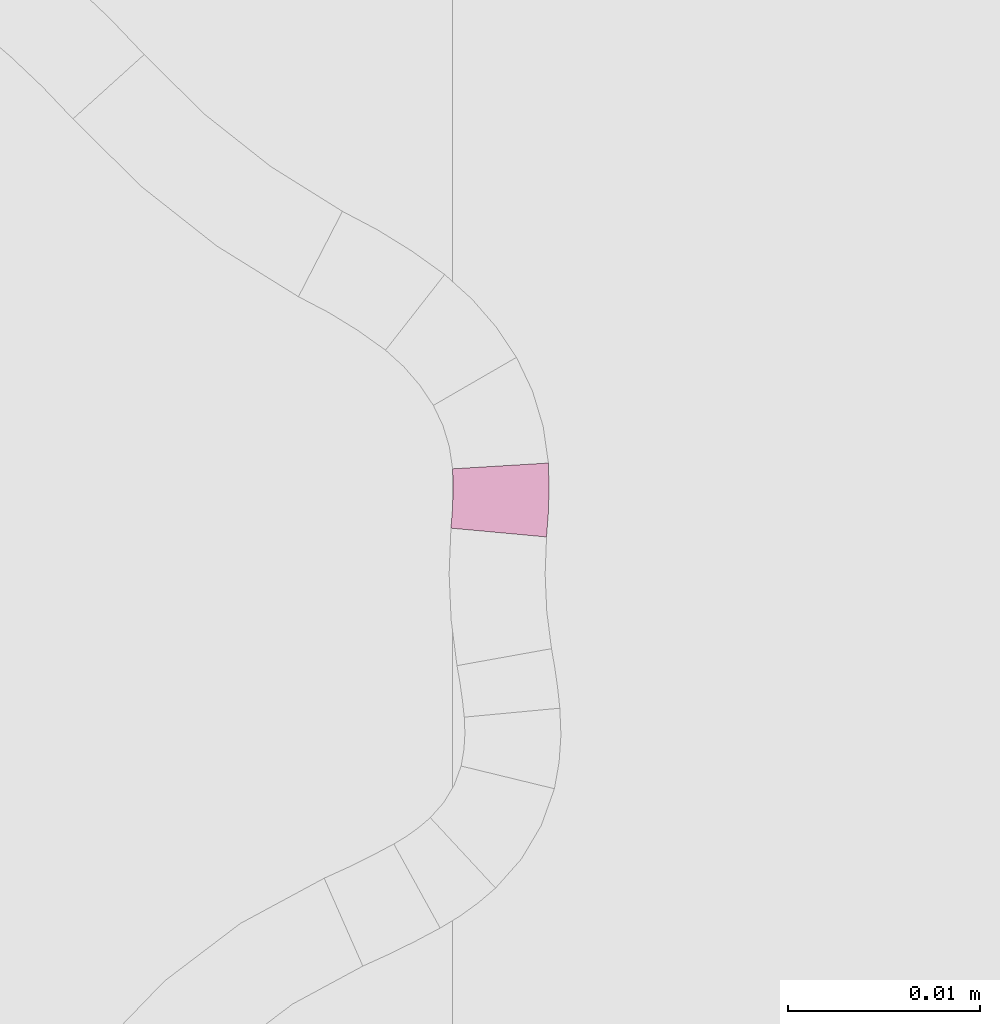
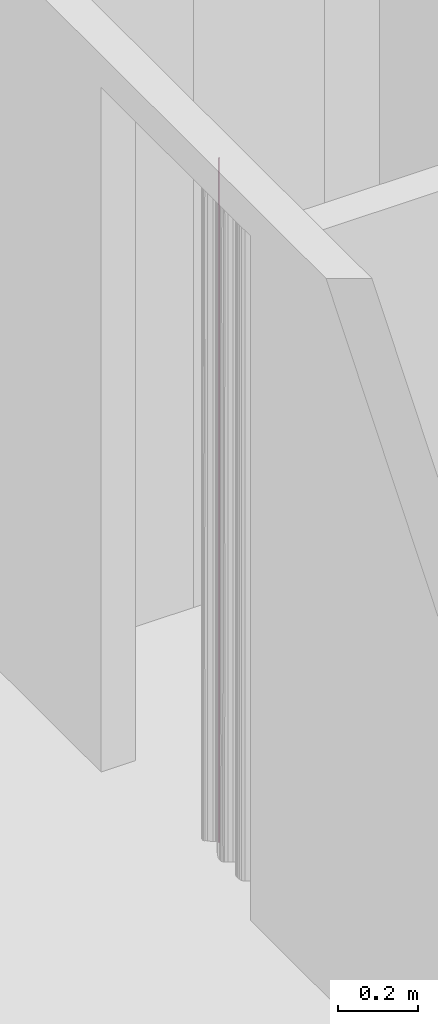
# One storey, part 216 of 418: 1 furnishing.
"""IFC2X3 building model written with IfcOpenShell, lengths in millimetres."""

from ifc_helpers import new_model, entity, si_unit, converted_unit, derived_unit, money_unit, point, direction, frame, frame_2d, origin_with_axes, place, context, subcontext, project, spatial, polyline, circle_curve, parameter, trimmed, segment, composite_curve, outline, extrude, material, type_object, element, save


model = new_model("IFC2X3")

# Units and contexts
model_context = context("Model", 3, precision=0.01, world=origin_with_axes(), true_north=direction((0.0, 1.0)))
body_context = subcontext(model_context, "Body", "Model", "MODEL_VIEW")
ifc_project = project(units=[si_unit("LENGTHUNIT", "METRE", prefix="MILLI"), si_unit("AREAUNIT", "SQUARE_METRE"), si_unit("VOLUMEUNIT", "CUBIC_METRE"), converted_unit("PLANEANGLEUNIT", "DEGREE", entity("IfcPlaneAngleMeasure", 0.0174532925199), si_unit("PLANEANGLEUNIT", "RADIAN"), dimensions=[0, 0, 0, 0, 0, 0, 0]), si_unit("SOLIDANGLEUNIT", "STERADIAN"), money_unit("EUR"), converted_unit("TIMEUNIT", "Year", entity("IfcTimeMeasure", 31556926.0), si_unit("TIMEUNIT", "SECOND"), dimensions=[0, 0, 1, 0, 0, 0, 0]), si_unit("MASSUNIT", "GRAM", prefix="KILO"), si_unit("THERMODYNAMICTEMPERATUREUNIT", "DEGREE_CELSIUS"), si_unit("LUMINOUSINTENSITYUNIT", "LUMEN"), si_unit("ENERGYUNIT", "JOULE", prefix="MEGA"), derived_unit("THERMALCONDUCTANCEUNIT", [(si_unit("POWERUNIT", "WATT"), 1), (si_unit("LENGTHUNIT", "METRE"), -1), (si_unit("THERMODYNAMICTEMPERATUREUNIT", "KELVIN"), -1)]), derived_unit("SPECIFICHEATCAPACITYUNIT", [(si_unit("ENERGYUNIT", "JOULE"), 1), (si_unit("MASSUNIT", "GRAM", prefix="KILO"), -1), (si_unit("THERMODYNAMICTEMPERATUREUNIT", "KELVIN"), -1)]), derived_unit("MASSDENSITYUNIT", [(si_unit("MASSUNIT", "GRAM", prefix="KILO"), 1), (si_unit("VOLUMEUNIT", "CUBIC_METRE"), -1)])], contexts=[model_context])

# Site, building, storey
site_placement = place(None, origin_with_axes())
site = spatial("IfcSite", under=ifc_project, at=site_placement, Name="Paldiski mnt 245/1, Tallinn, Harjumaa", CompositionType="COMPLEX")
building_placement = place(site_placement, origin_with_axes())
building = spatial("IfcBuilding", under=site, at=building_placement, Name="RKAS Hoone üldnimetus (kasutust iseloomustav) -> IFC Project Manager -> SOLIBRI", CompositionType="ELEMENT")
storey_placement = place(building_placement, origin_with_axes())
storey = spatial("IfcBuildingStorey", under=building, at=storey_placement, Name="Esimene korrus", CompositionType="ELEMENT", Elevation=0.0)

# Furnishing
ifc_material = material(Name="KON-00_GENEERILINE - KONSTRUKTSIOON")
furniture_type = type_object("IfcFurnitureType", Name="KON-00_GENEERILINE - KONSTRUKTSIOON 5", AssemblyPlace="NOTDEFINED")
furnishing_placement = place(storey_placement, frame((-45022.4719037, -1034.13089219, 0.0), z_axis=(0.0, 0.0, 1.0), x_axis=(0.10511924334, 0.994459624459, 0.0)))
element("IfcFurnishingElement", 1, at=furnishing_placement, inside=storey, type_object=furniture_type, material=ifc_material, Name="SS-76", context=body_context, shape_type="SweptSolid", body=[
    extrude(outline(composite_curve([segment(trimmed(circle_curve(frame_2d((0.0, 20.0698635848), x_axis=(0.00267000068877, -0.999996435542)), 25.0698635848), [point((0.0669365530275, -4.99991063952)), parameter(0.0)], [point((3.90831252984, -4.69347935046)), parameter(8.81583381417)], True, "CARTESIAN"), True, "CONTINUOUS"), segment(polyline([(3.90831252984, -4.69347935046), (3.0837711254, 0.238328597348)]), True, "CONTINUOUS"), segment(trimmed(circle_curve(frame_2d((0.0, 20.0698635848), x_axis=(0.0, -1.0)), 20.0698635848), [point((3.0837711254, 0.238328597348)), parameter(8.83861477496)], [point((0.0, 0.0)), parameter(0.0)], False, "CARTESIAN"), True, "CONTINUOUS"), segment(polyline([(0.0, 0.0), (0.0669365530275, -4.99991063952)]), True, "CONTINUOUS")], self_intersect=False)), origin_with_axes(), (0.0, 0.0, 1.0), 2100.0),
])

save(model, "model.ifc")
